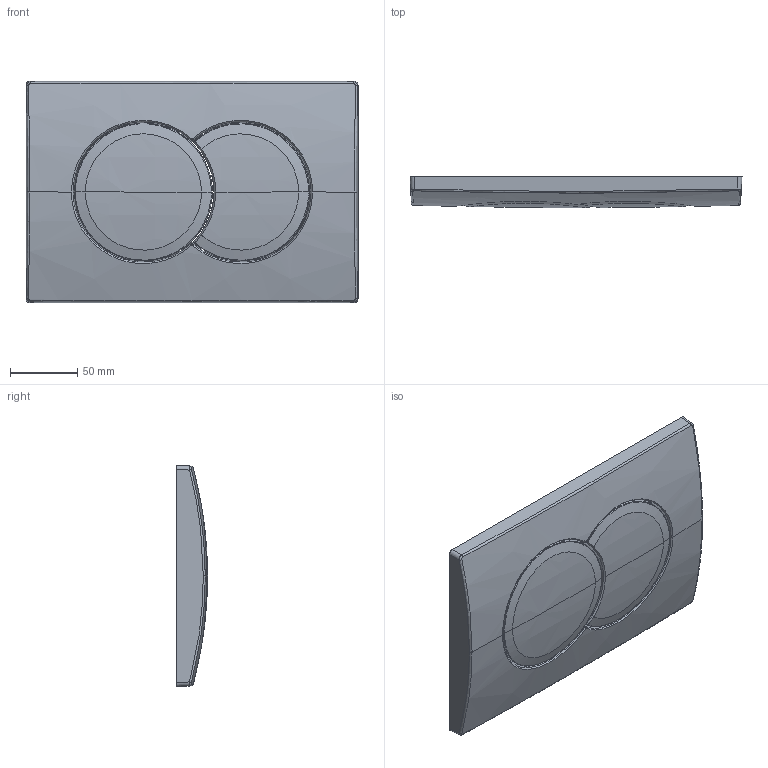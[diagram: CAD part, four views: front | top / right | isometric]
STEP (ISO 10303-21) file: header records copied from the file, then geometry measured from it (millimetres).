
FILE_DESCRIPTION(/* description */ (''),/* implementation_level */ '2;1');
FILE_NAME(/* name */ 'C:\Planerdaten\Export PLA\115.107.11.1\stp\115107.stp',/* time_stamp */ '2021-10-08T09:25:37+02:00',/* author */ ('JANAN'),/* organization */ (''),/* preprocessor_version */ 'ST-DEVELOPER v16.13',/* originating_system */ 'Autodesk Inventor 2018',/* authorisation */ '');
FILE_SCHEMA (('AUTOMOTIVE_DESIGN { 1 0 10303 214 3 1 1 }'));
Length unit declared in the file: millimetre
Products named in the file (1): tmp6B32.tmp
Bounding box: 246 x 22.99 x 164 mm (x, y, z)
Volume: 635059.9 mm3; surface area: 107717.3 mm2
Topology: 3 solids, 3 shells, 62 faces, 188 edges, 131 vertices
Faces by surface type: bspline 40, plane 11, cylinder 6, cone 5
Entity records: 6085 total; most frequent: CARTESIAN_POINT 4520, ORIENTED_EDGE 372, DIRECTION 207, EDGE_CURVE 186, VERTEX_POINT 130, B_SPLINE_CURVE_WITH_KNOTS 88, AXIS2_PLACEMENT_3D 86, STYLED_ITEM 65
